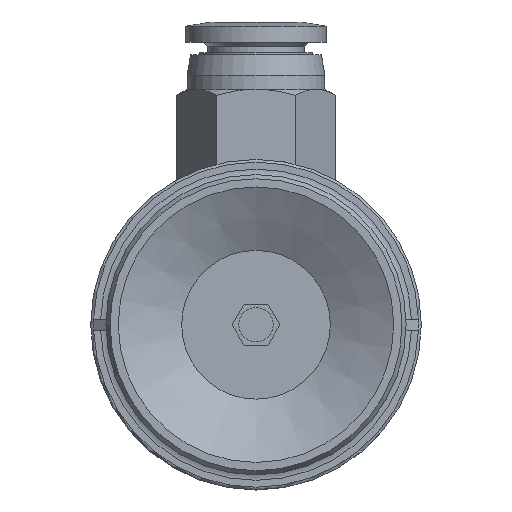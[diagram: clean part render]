
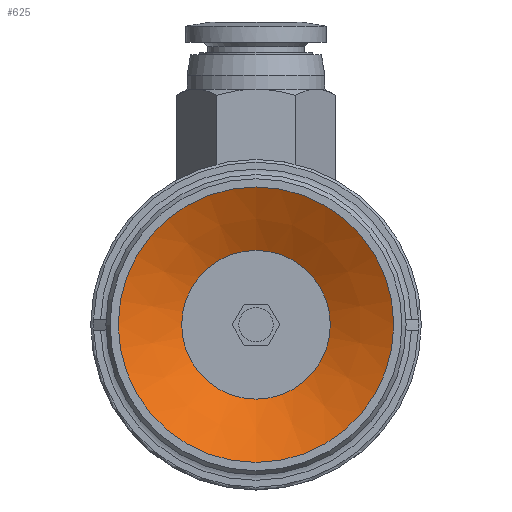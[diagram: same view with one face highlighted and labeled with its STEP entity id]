
A CAD part, front view. The second image highlights one B-rep face of the part: STEP entity #625.
In plain terms, the highlighted conical face has half-angle 61.631 degrees and reference radius 5.4 mm.
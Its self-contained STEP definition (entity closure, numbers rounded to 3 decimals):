
#625=ADVANCED_FACE('',(#967,#968),#969,.F.);
#967=FACE_BOUND('',#1414,.T.);
#968=FACE_OUTER_BOUND('',#1415,.T.);
#969=CONICAL_SURFACE('',#1416,5.4,1.076);
#1414=EDGE_LOOP('',(#2572));
#1415=EDGE_LOOP('',(#2573));
#1416=AXIS2_PLACEMENT_3D('',#2574,#2575,#2576);
#2572=ORIENTED_EDGE('',*,*,#3217,.F.);
#2573=ORIENTED_EDGE('',*,*,#3226,.T.);
#2574=CARTESIAN_POINT('',(0.0,2.484,0.0));
#2575=DIRECTION('',(-0.0,-1.0,0.));
#2576=DIRECTION('',(0.0,0.,-1.0));
#3217=EDGE_CURVE('',#3700,#3700,#3701,.T.);
#3226=EDGE_CURVE('',#3717,#3717,#3718,.T.);
#3700=VERTEX_POINT('',#4706);
#3701=CIRCLE('',#4707,5.4);
#3717=VERTEX_POINT('',#4725);
#3718=CIRCLE('',#4726,10.0);
#4706=CARTESIAN_POINT('',(0.0,2.484,-5.4));
#4707=AXIS2_PLACEMENT_3D('',#5564,#5565,#5566);
#4725=CARTESIAN_POINT('',(0.0,0.,-10.0));
#4726=AXIS2_PLACEMENT_3D('',#5587,#5588,#5589);
#5564=CARTESIAN_POINT('',(0.0,2.484,0.0));
#5565=DIRECTION('',(0.0,-1.0,0.));
#5566=DIRECTION('',(0.0,0.,-1.0));
#5587=CARTESIAN_POINT('',(0.0,0.0,0.0));
#5588=DIRECTION('',(0.0,-1.0,0.));
#5589=DIRECTION('',(0.0,0.,-1.0));
